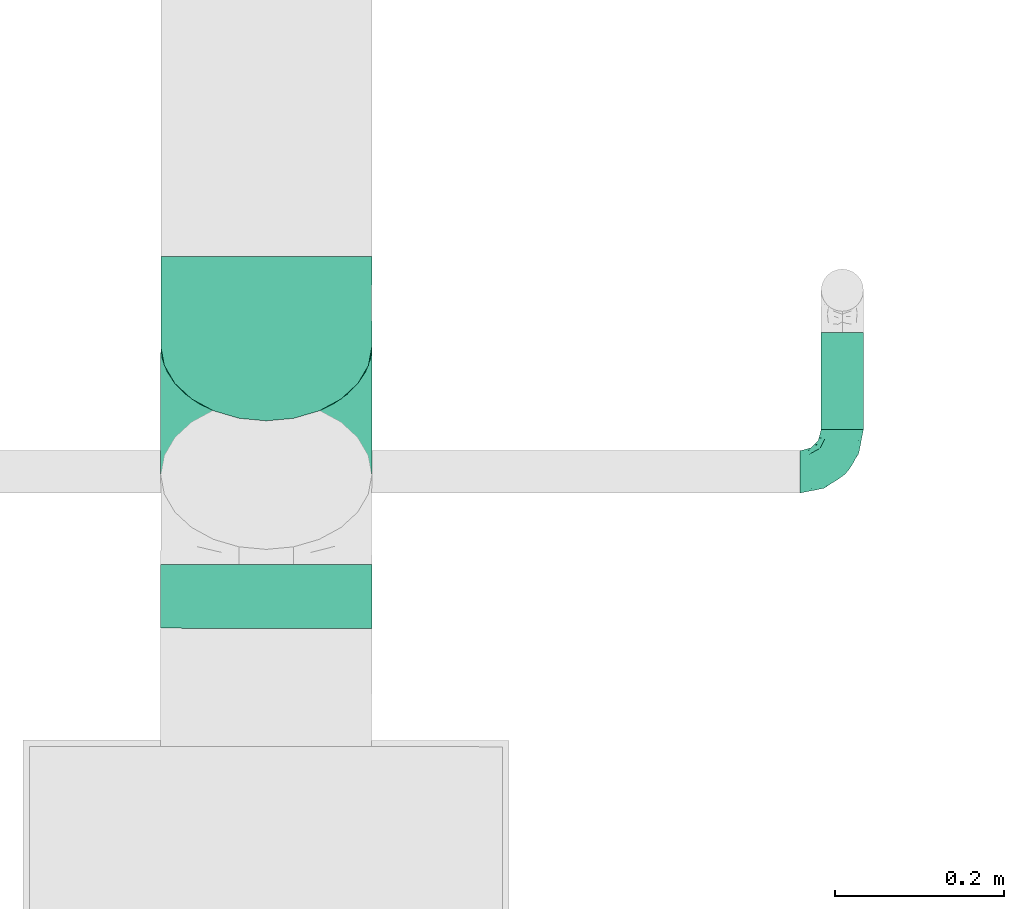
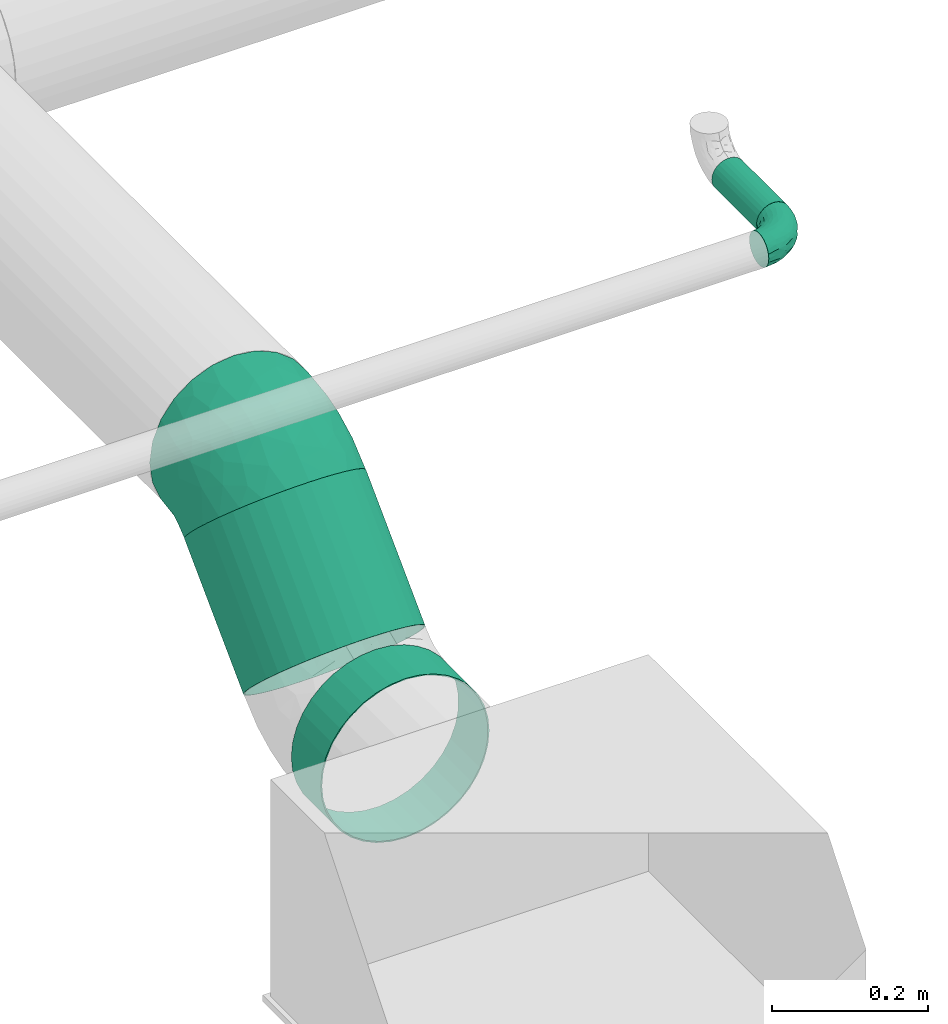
# One storey, part 41 of 63: 3 flow segments, 2 flow fittings.
"""IFC2X3 building model written with IfcOpenShell, lengths in millimetres."""

from ifc_helpers import new_model, entity, si_unit, converted_unit, derived_unit, direction, frame, origin_with_axes, origin_2d_with_axis, place, context, subcontext, project, spatial, hollow_circle, extrude, open_shell, surface_model, source, transform, mapped, type_object, element, save


model = new_model("IFC2X3")

# Units and contexts
model_context = context("Model", 3, precision=0.01, world=frame((0.0, 4.29681676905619e-09, 0.0)), true_north=direction((4.01073788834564e-13, 1.0)))
plan_context = context("Plan", 3, precision=0.01, world=frame((0.0, 4.29681676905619e-09, 0.0)), true_north=direction((4.01073788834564e-13, 1.0)))
body_context = subcontext(model_context, "Body", "Model", "MODEL_VIEW")
ifc_project = project(units=[converted_unit("PLANEANGLEUNIT", "DEGREE", entity("IfcPositiveLengthMeasure", 0.0174532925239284), si_unit("PLANEANGLEUNIT", "RADIAN"), dimensions=[0, 0, 0, 0, 0, 0, 0]), si_unit("AREAUNIT", "SQUARE_METRE"), si_unit("LENGTHUNIT", "METRE", prefix="MILLI"), si_unit("MASSUNIT", "GRAM", prefix="KILO"), si_unit("POWERUNIT", "WATT"), si_unit("PRESSUREUNIT", "PASCAL"), si_unit("FORCEUNIT", "NEWTON", prefix="KILO"), si_unit("ELECTRICVOLTAGEUNIT", "VOLT"), si_unit("ELECTRICCURRENTUNIT", "AMPERE"), si_unit("THERMODYNAMICTEMPERATUREUNIT", "DEGREE_CELSIUS"), si_unit("TIMEUNIT", "SECOND"), si_unit("VOLUMEUNIT", "CUBIC_METRE"), derived_unit("LINEARVELOCITYUNIT", [(si_unit("LENGTHUNIT", "METRE"), 1), (si_unit("TIMEUNIT", "SECOND"), -1)]), derived_unit("VOLUMETRICFLOWRATEUNIT", [(si_unit("VOLUMEUNIT", "CUBIC_METRE"), 1), (si_unit("TIMEUNIT", "SECOND"), -1)]), derived_unit("THERMALTRANSMITTANCEUNIT", [(si_unit("POWERUNIT", "WATT"), 1), (si_unit("THERMODYNAMICTEMPERATUREUNIT", "KELVIN"), -1), (si_unit("AREAUNIT", "SQUARE_METRE"), -1)]), derived_unit("SOUNDPRESSUREUNIT", [(si_unit("PRESSUREUNIT", "PASCAL"), 1)])], contexts=[model_context, plan_context])

# Site, building, storey
site_placement = place(None, frame((0.0, -4.29681676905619e-09, 0.0), z_axis=(0.0, 0.0, 1.0), x_axis=(1.0, 0.0, 0.0)))
site = spatial("IfcSite", under=ifc_project, at=site_placement, CompositionType="ELEMENT")
building_placement = place(site_placement, frame((0.0, 4.29681676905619e-09, 0.0), z_axis=(0.0, 0.0, 1.0), x_axis=(1.0, 0.0, 0.0)))
building = spatial("IfcBuilding", under=site, at=building_placement, Name="mc-building", CompositionType="ELEMENT")
storey_placement = place(building_placement, frame((0.0, 0.0, 210900.0), z_axis=(0.0, 0.0, 1.0), x_axis=(1.0, 0.0, 0.0)))
storey = spatial("IfcBuildingStorey", under=building, at=storey_placement, Name="Nivå F", CompositionType="ELEMENT", Elevation=210900.0)

# Flow fittings
duct_fitting_type_1 = type_object("IfcDuctFittingType", Name="magicirc_elbow_short_001", PredefinedType="BEND")
shared_shape_1 = source(origin_with_axes(), body_context, "Body", "SurfaceModel", [
    surface_model("IfcShellBasedSurfaceModel", [(-62.13204, 0.0, -125.0), (-62.13204, -32.35238, -120.74073), (-62.13204, 32.35238, -120.74073), (-62.13204, 62.5, -108.25318), (-62.13204, 88.38835, -88.38835), (-62.13204, 108.25318, -62.5), (-62.13204, 120.74073, -32.35238), (-62.13204, -62.5, -108.25318), (-62.13204, -88.38835, -88.38835), (-62.13204, -125.0, 0.0), (-62.13204, -108.25318, -62.5), (-62.13204, -120.74073, -32.35238), (-62.13204, 125.0, 0.0), (-62.13204, -120.74073, 32.35238), (-62.13204, 120.74073, 32.35238), (-62.13204, 108.25318, 62.5), (-62.13204, 32.35238, 120.74073), (-62.13204, 62.5, 108.25318), (-62.13204, 88.38835, 88.38835), (-62.13204, -88.38835, 88.38835), (-62.13204, -108.25318, 62.5), (-62.13204, -32.35238, 120.74073), (-62.13204, 0.0, 125.0), (-62.13204, -62.5, 108.25318), (-32.61257, 120.48054, -62.5), (-41.44261, 129.31057, -32.35238), (-44.45436, 132.32233, 0.0), (-41.44261, 129.31057, 32.35238), (-32.61257, 120.48054, 62.5), (-39.32094, -100.77129, 72.52866), (-25.3983, -115.58366, 40.92131), (-9.38975, -99.61313, 67.6303), (-40.71594, 99.20513, 81.38635), (-18.56602, 106.43398, 88.38835), (6.93461, -16.74165, 121.22697), (-29.92798, -19.88945, 122.8817), (-17.69423, -50.99343, 111.83063), (-28.63512, 12.8945, 124.68547), (-43.55871, 45.16564, 117.17454), (-19.1971, 46.34588, 119.14586), (20.11216, -107.05726, 35.36285), (37.22525, -89.79474, 60.1728), (-42.64489, 65.81413, 107.6176), (18.18237, -43.89615, 109.72868), (-48.14682, 116.23669, 52.46898), (11.13029, 29.36587, 124.68547), (-8.4822, -119.71595, 0.0), (17.31186, -111.89141, 0.0), (-27.44697, 77.92943, 103.54984), (-1.13628, 62.73759, 117.17454), (-0.26019, 88.12816, 108.25318), (29.58221, -71.41779, 87.09722), (2.27359, -83.55864, 84.32151), (46.20365, -49.09439, 98.73245), (43.10591, -104.06687, 0.0), (-28.63512, 12.89449, -124.68547), (-29.92797, -19.88945, -122.8817), (11.13029, 29.36586, -124.68547), (-19.1971, 46.34588, -119.14586), (-43.55871, 45.16564, -117.17454), (-35.69649, 74.51237, -103.54983), (-25.3983, -115.58366, -40.92131), (-48.14682, 116.23669, -52.46898), (-39.32094, -100.77129, -72.52866), (-16.38313, 76.69211, -107.6176), (-18.56602, 106.43398, -88.38835), (-0.26019, 88.12816, -108.25318), (-17.69423, -50.99343, -111.83063), (6.93461, -16.74165, -121.22697), (-1.13628, 62.73759, -117.17454), (48.5695, -23.54609, -111.83063), (35.22623, 7.0983, -122.8817), (-9.38975, -99.61313, -67.63031), (2.04406, -67.38589, -98.73245), (29.58221, -71.41778, -87.09723), (43.93399, 43.934, -125.0), (106.43399, -18.56599, 88.38835), (132.32235, -44.45434, 0.0), (21.05739, 66.81058, -120.74073), (88.12817, -0.26017, 108.25318), (66.81057, 21.05741, -120.74073), (106.43399, -18.56599, -88.38835), (88.12817, -0.26017, -108.25318), (129.31058, -41.44258, -32.35238), (120.48055, -32.61255, -62.5), (21.05739, 66.81058, 120.74073), (43.93399, 43.934, 125.0), (129.31058, -41.44258, 32.35238), (120.48055, -32.61255, 62.5), (66.81057, 21.05741, 120.74073), (-31.08246, -121.94188, 0.0), (35.22622, 7.09831, 122.8817), (77.07669, -63.79755, 67.6303), (61.9235, -89.5906, 35.66991), (-52.56496, 126.90301, 0.0), (99.68931, -63.77067, 40.92131), (48.5695, -23.54609, 111.83062), (99.06018, -43.45194, 72.52866), (74.0201, -37.27574, 94.74512), (108.20455, -64.2473, 0.0), (90.64979, -78.65413, 0.0), (66.87785, -91.36049, 0.0), (-3.43913, -67.17105, 100.02812), (19.56361, -107.13664, -35.66991), (-41.35812, 98.93914, -81.38635), (-25.98217, -78.69805, -94.74512), (61.47949, -89.92235, -35.36285), (18.18239, -43.89616, -109.72867), (57.47721, -60.69254, -84.32152), (74.02009, -37.27574, -94.74513), (77.07669, -63.79755, -67.6303), (37.17223, -89.81669, -60.17279), (99.68931, -63.77066, -40.92131), (99.06018, -43.45194, -72.52866), (49.92893, -45.06527, -100.02812), (-25.98217, -78.69805, 94.74512)], [open_shell([[[0, 1, 2]], [[3, 2, 4]], [[1, 5, 2]], [[4, 2, 5]], [[5, 1, 6]], [[7, 8, 1]], [[9, 1, 8]], [[10, 11, 8]], [[9, 8, 11]], [[9, 6, 1]], [[9, 12, 6]], [[12, 13, 14]], [[15, 14, 16]], [[16, 17, 18]], [[15, 16, 18]], [[16, 14, 19]], [[20, 19, 13]], [[19, 14, 13]], [[21, 22, 23]], [[19, 23, 22]], [[19, 22, 16]], [[9, 13, 12]], [[24, 25, 26]], [[26, 27, 28]], [[29, 30, 31]], [[32, 33, 28]], [[30, 20, 13]], [[34, 35, 36]], [[21, 35, 22]], [[21, 23, 36]], [[16, 22, 37]], [[38, 37, 39]], [[31, 40, 41]], [[42, 17, 38]], [[38, 17, 16]], [[43, 34, 36]], [[35, 37, 22]], [[14, 15, 44]], [[42, 32, 18]], [[29, 19, 20]], [[40, 31, 30]], [[37, 45, 39]], [[45, 37, 34]], [[40, 46, 47]], [[42, 18, 17]], [[33, 32, 48]], [[27, 44, 28]], [[48, 39, 49]], [[33, 48, 50]], [[44, 32, 28]], [[18, 32, 15]], [[36, 35, 21]], [[37, 35, 34]], [[41, 51, 52]], [[14, 44, 27]], [[32, 44, 15]], [[37, 38, 16]], [[42, 39, 48]], [[39, 42, 38]], [[42, 48, 32]], [[48, 49, 50]], [[45, 49, 39]], [[30, 29, 20]], [[53, 43, 51]], [[46, 40, 30]], [[47, 54, 40]], [[41, 52, 31]], [[0, 2, 55]], [[56, 1, 0]], [[57, 55, 58]], [[59, 60, 58]], [[10, 61, 11]], [[3, 4, 60]], [[62, 6, 25]], [[61, 10, 63]], [[64, 65, 66]], [[1, 56, 67]], [[8, 63, 10]], [[7, 1, 67]], [[56, 55, 68]], [[25, 24, 62]], [[69, 64, 66]], [[2, 3, 59]], [[59, 55, 2]], [[69, 57, 58]], [[70, 68, 71]], [[55, 57, 68]], [[55, 56, 0]], [[67, 56, 68]], [[57, 71, 68]], [[6, 62, 5]], [[60, 59, 3]], [[55, 59, 58]], [[64, 58, 60]], [[58, 64, 69]], [[61, 63, 72]], [[72, 73, 74]], [[75, 76, 77]], [[66, 26, 78]], [[78, 79, 75]], [[24, 66, 65]], [[66, 24, 26]], [[80, 81, 82]], [[80, 75, 81]], [[81, 83, 84]], [[83, 81, 77]], [[75, 77, 81]], [[26, 28, 50]], [[50, 85, 26]], [[50, 28, 33]], [[26, 85, 86]], [[87, 76, 88]], [[77, 76, 87]], [[79, 86, 89]], [[76, 75, 79]], [[86, 79, 26]], [[78, 26, 79]], [[90, 46, 30]], [[91, 45, 34]], [[92, 41, 93]], [[94, 14, 27]], [[40, 93, 41]], [[94, 12, 14]], [[92, 93, 95]], [[40, 54, 93]], [[96, 89, 91]], [[97, 88, 76]], [[89, 96, 79]], [[88, 97, 95]], [[88, 95, 87]], [[96, 98, 79]], [[53, 92, 98]], [[95, 99, 87]], [[85, 50, 49]], [[41, 92, 51]], [[30, 13, 90]], [[26, 94, 27]], [[93, 100, 95]], [[93, 54, 101]], [[86, 91, 89]], [[86, 85, 45]], [[45, 85, 49]], [[34, 43, 96]], [[79, 98, 76]], [[93, 101, 100]], [[53, 98, 96]], [[97, 98, 92]], [[45, 91, 86]], [[96, 91, 34]], [[13, 9, 90]], [[99, 95, 100]], [[99, 77, 87]], [[98, 97, 76]], [[95, 97, 92]], [[51, 43, 102]], [[51, 102, 52]], [[43, 36, 102]], [[43, 53, 96]], [[92, 53, 51]], [[103, 46, 61]], [[78, 75, 57]], [[4, 104, 60]], [[73, 72, 105]], [[80, 82, 70]], [[61, 90, 11]], [[83, 77, 99]], [[105, 7, 67]], [[106, 100, 101]], [[103, 54, 47]], [[72, 103, 61]], [[105, 8, 7]], [[68, 107, 67]], [[6, 12, 94]], [[108, 109, 110]], [[94, 26, 25]], [[111, 72, 74]], [[112, 83, 99]], [[82, 81, 109]], [[112, 84, 83]], [[64, 104, 65]], [[4, 5, 104]], [[113, 81, 84]], [[109, 108, 114]], [[70, 82, 109]], [[66, 78, 69]], [[75, 80, 71]], [[110, 113, 112]], [[107, 68, 70]], [[112, 99, 100]], [[106, 103, 111]], [[106, 110, 112]], [[110, 106, 111]], [[71, 57, 75]], [[103, 47, 46]], [[94, 25, 6]], [[113, 109, 81]], [[106, 54, 103]], [[73, 105, 67]], [[63, 105, 72]], [[62, 104, 5]], [[65, 104, 24]], [[70, 71, 80]], [[90, 61, 46]], [[90, 9, 11]], [[72, 111, 103]], [[111, 74, 108]], [[104, 62, 24]], [[57, 69, 78]], [[64, 60, 104]], [[112, 113, 84]], [[109, 113, 110]], [[105, 63, 8]], [[114, 70, 109]], [[73, 107, 74]], [[100, 106, 112]], [[101, 54, 106]], [[111, 108, 110]], [[74, 107, 114]], [[74, 114, 108]], [[107, 70, 114]], [[107, 73, 67]], [[23, 115, 36]], [[52, 102, 115]], [[23, 19, 115]], [[29, 115, 19]], [[52, 115, 31]], [[115, 29, 31]], [[102, 36, 115]]])]),
])
flow_fitting_1_placement = place(storey_placement, frame((530504.09314, 458782.68623, 4200.0), z_axis=(-0.999999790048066, 0.000647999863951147, -3.79470760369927e-19), x_axis=(0.000458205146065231, 0.707106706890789, 0.707106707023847)))
element("IfcFlowFitting", 1, at=flow_fitting_1_placement, inside=storey, type_object=duct_fitting_type_1, Name="magicirc_elbow_short_001", context=body_context, shape_type="MappedRepresentation", body=[
    mapped(shared_shape_1, transform((0.0, 0.0, 0.0), scale=1.0)),
])
duct_fitting_type_2 = type_object("IfcDuctFittingType", Name="magicirc_elbow_full_radius_001", PredefinedType="BEND")
shared_shape_2 = source(origin_with_axes(), body_context, "Body", "SurfaceModel", [
    surface_model("IfcShellBasedSurfaceModel", [(-50.0, -6.47048, 24.14815), (-50.0, 0.0, 25.0), (-50.0, 6.47048, 24.14815), (-50.0, 25.0, 0.0), (-50.0, 24.14815, -6.47048), (-50.0, 24.14815, 6.47048), (-50.0, 6.47048, -24.14815), (-50.0, 0.0, -25.0), (-50.0, 12.5, -21.65064), (-50.0, 21.65064, -12.5), (-50.0, 17.67767, -17.67767), (-50.0, -17.67767, -17.67767), (-50.0, -12.5, -21.65064), (-50.0, -6.47048, -24.14815), (-50.0, -21.65064, -12.5), (-50.0, -24.14815, -6.47048), (-50.0, -24.14815, 6.47048), (-50.0, -25.0, 0.0), (-50.0, 21.65064, 12.5), (-50.0, 12.5, 21.65064), (-50.0, 17.67767, 17.67767), (-50.0, -12.5, 21.65064), (-50.0, -21.65064, 12.5), (-50.0, -17.67767, 17.67767), (-24.14815, 50.0, -6.47048), (0.0, 50.0, -25.0), (-6.47048, 50.0, -24.14815), (-12.5, 50.0, -21.65064), (-21.65064, 50.0, -12.5), (-17.67767, 50.0, -17.67767), (17.67767, 50.0, -17.67767), (6.47048, 50.0, -24.14815), (12.5, 50.0, -21.65064), (24.14815, 50.0, -6.47048), (21.65064, 50.0, -12.5), (25.0, 50.0, 0.0), (-24.14815, 50.0, 6.47048), (24.14815, 50.0, 6.47048), (-6.47048, 50.0, 24.14815), (-21.65064, 50.0, 12.5), (-17.67767, 50.0, 17.67767), (-12.5, 50.0, 21.65064), (12.5, 50.0, 21.65064), (17.67767, 50.0, 17.67767), (21.65064, 50.0, 12.5), (6.47048, 50.0, 24.14815), (0.0, 50.0, 25.0), (-25.0, 50.0, 0.0), (-36.67735, -19.42227, 14.03433), (-32.82968, -14.42335, 18.62892), (-35.64937, -22.14548, 0.0), (-22.09962, -15.92094, 12.6179), (-33.22625, -21.82028, 7.797), (21.82028, 33.22625, 7.797), (17.64067, 19.58414, 6.40882), (19.29096, 21.29874, 0.0), (-24.43766, 39.90136, 10.86587), (-20.88421, 38.92216, 16.42417), (-36.74567, -9.45359, 22.49231), (-38.192, -3.31182, 24.57244), (-35.00811, 3.83216, 24.95739), (-9.13287, -11.16199, 0.0), (-19.58414, -17.64067, 6.40882), (-21.29874, -19.29096, 0.0), (-19.31524, -6.06759, 20.7695), (-24.88984, -0.22435, 24.23133), (-2.15147, -4.22615, 11.26442), (-0.41902, 0.51586, 14.93357), (-8.49829, -5.98681, 15.40266), (-39.08085, 20.84056, 16.4067), (-8.68866, 24.58498, 24.95514), (-18.51786, 18.51786, 24.39255), (-14.88627, 10.92479, 24.87122), (-43.25329, 15.13957, 20.3706), (-9.33205, 43.12334, 23.41697), (-3.42635, 37.39647, 24.9386), (-39.91378, 24.43361, 10.86421), (-39.52416, 26.62869, 5.49664), (-31.04081, 31.04081, 9.34521), (-38.53768, 9.80489, 23.61608), (-6.5257, 16.74435, 24.54744), (-12.42199, 4.5863, 23.34496), (-2.55398, 13.50681, 22.9747), (-4.46571, 4.46571, 20.43962), (14.42335, 32.82968, 18.62892), (15.92094, 22.09962, 12.6179), (19.42227, 36.67735, 14.03433), (-26.57791, 16.96315, 23.12353), (-27.47187, 10.70867, 24.55261), (3.31182, 38.192, 24.57244), (9.45359, 36.74567, 22.49231), (6.06759, 19.31524, 20.7695), (22.14548, 35.64937, 0.0), (-24.53158, 6.12607, 24.98933), (-23.14362, 26.40038, 20.54252), (-34.42614, 16.97043, 21.05258), (-26.31567, 40.33071, 5.36329), (-31.33209, 32.79034, 4.39983), (11.41104, 20.24921, 17.09898), (-28.34936, 37.5, 0.0), (-10.81204, 33.87561, 23.80901), (-14.26605, 25.87925, 24.03265), (-18.12489, 32.31264, 21.01179), (-19.91717, 24.20374, 22.74716), (-15.27322, 41.92094, 20.47431), (-20.24921, -11.41104, 17.09898), (-25.92754, 33.13968, 14.14974), (-26.35258, 27.91972, 17.70863), (-32.10875, 26.86285, 13.94058), (0.22435, 24.88984, 24.23133), (5.69292, 8.68334, 15.83541), (-11.86567, -11.15996, 11.73483), (1.48439, -3.24717, 6.76648), (7.59176, 4.45273, 8.73079), (7.75387, 2.59512, 3.74652), (12.87658, 10.42821, 5.90505), (12.55206, 12.96891, 10.49254), (-37.5, 28.34936, 0.0), (-6.73798, -9.94178, 7.2586), (3.03301, -3.03301, 0.0), (11.16199, 9.13287, 0.0), (-20.24921, -11.41104, -17.09898), (-32.82968, -14.42335, -18.62892), (-19.31524, -6.06759, -20.7695), (-22.09962, -15.92095, -12.6179), (-38.92216, 20.88421, -16.42417), (-41.92094, 15.27322, -20.47431), (-40.33071, 26.31567, -5.36329), (-33.22625, -21.82028, -7.797), (-31.04081, 31.0408, -9.34521), (-39.90136, 24.43766, -10.86587), (-19.58414, -17.64067, -6.40882), (-24.20374, 19.91717, -22.74716), (-25.87925, 14.26604, -24.03266), (-32.31264, 18.12489, -21.01179), (-15.13957, 43.25329, -20.3706), (-20.84057, 39.08085, -16.4067), (9.45359, 36.74567, -22.49231), (6.06759, 19.31524, -20.7695), (0.22435, 24.88984, -24.23133), (-43.12334, 9.33205, -23.41697), (-36.67735, -19.42227, -14.03433), (-36.74567, -9.45359, -22.49231), (-16.96315, 26.5779, -23.12354), (-9.80489, 38.53768, -23.61608), (-10.70867, 27.47187, -24.55261), (-38.192, -3.31182, -24.57244), (-24.58498, 8.68866, -24.95514), (-18.51786, 18.51786, -24.39255), (-10.92479, 14.88627, -24.87122), (-37.39647, 3.42635, -24.9386), (-26.62869, 39.52416, -5.49664), (-24.43361, 39.91378, -10.86421), (-33.87561, 10.81204, -23.80901), (-32.79034, 31.33209, -4.39983), (-6.12607, 24.53158, -24.98933), (-26.40038, 23.14362, -20.54252), (-16.97043, 34.42613, -21.05258), (3.31182, 38.192, -24.57244), (-3.83216, 35.00811, -24.95739), (19.42227, 36.67735, -14.03433), (14.42335, 32.82968, -18.62892), (7.75387, 2.59513, -3.74652), (12.87658, 10.42822, -5.90505), (-16.74435, 6.5257, -24.54744), (-4.5863, 12.42199, -23.34496), (-13.50681, 2.55398, -22.9747), (1.48439, -3.24717, -6.76647), (-6.73799, -9.94178, -7.2586), (-2.15147, -4.22615, -11.26442), (15.92094, 22.09962, -12.6179), (21.82028, 33.22625, -7.797), (17.64067, 19.58414, -6.40882), (-33.13968, 25.92753, -14.14974), (11.41104, 20.24921, -17.09898), (12.55206, 12.96891, -10.49254), (5.69292, 8.68334, -15.83541), (-27.91972, 26.35258, -17.70863), (-26.86285, 32.10875, -13.94058), (-24.88984, -0.22435, -24.23133), (-4.46571, 4.46571, -20.43962), (-8.49829, -5.98681, -15.40266), (-11.86568, -11.15996, -11.73483), (-0.41902, 0.51586, -14.93357), (7.59175, 4.45273, -8.73079)], [open_shell([[[0, 1, 2]], [[3, 4, 5]], [[6, 7, 4]], [[8, 6, 4]], [[8, 4, 9]], [[10, 8, 9]], [[11, 4, 7]], [[12, 11, 13]], [[11, 7, 13]], [[14, 15, 11]], [[15, 16, 11]], [[17, 16, 15]], [[4, 11, 5]], [[5, 11, 16]], [[18, 5, 2]], [[2, 19, 20]], [[18, 2, 20]], [[2, 5, 21]], [[22, 23, 16]], [[21, 16, 23]], [[16, 21, 5]], [[21, 0, 2]], [[24, 25, 26]], [[24, 26, 27]], [[28, 24, 27]], [[28, 27, 29]], [[25, 24, 30]], [[31, 30, 32]], [[31, 25, 30]], [[30, 33, 34]], [[24, 33, 30]], [[24, 35, 33]], [[24, 36, 35]], [[37, 35, 36]], [[38, 36, 39]], [[40, 41, 38]], [[40, 38, 39]], [[42, 36, 38]], [[37, 43, 44]], [[43, 37, 42]], [[36, 42, 37]], [[38, 45, 42]], [[38, 46, 45]], [[36, 24, 47]], [[23, 48, 49]], [[16, 17, 50]], [[51, 48, 52]], [[53, 54, 55]], [[48, 23, 22]], [[16, 52, 22]], [[39, 56, 57]], [[49, 21, 23]], [[49, 58, 21]], [[1, 59, 60]], [[61, 62, 63]], [[58, 64, 65]], [[66, 67, 68]], [[18, 20, 69]], [[70, 71, 72]], [[19, 73, 20]], [[0, 59, 1]], [[38, 74, 75]], [[1, 60, 2]], [[18, 69, 76]], [[20, 73, 69]], [[3, 5, 77]], [[5, 18, 76]], [[77, 76, 78]], [[2, 79, 19]], [[80, 81, 82]], [[68, 83, 64]], [[84, 43, 42]], [[85, 86, 84]], [[87, 79, 88]], [[21, 58, 0]], [[46, 89, 45]], [[53, 37, 44]], [[46, 38, 75]], [[84, 90, 91]], [[44, 86, 53]], [[92, 37, 53]], [[86, 44, 43]], [[90, 42, 45]], [[53, 55, 92]], [[88, 93, 72]], [[54, 53, 85]], [[87, 94, 95]], [[78, 96, 97]], [[98, 84, 91]], [[99, 96, 47]], [[79, 2, 60]], [[96, 78, 56]], [[62, 52, 63]], [[57, 40, 39]], [[100, 70, 75]], [[101, 102, 103]], [[16, 50, 52]], [[104, 41, 40]], [[74, 38, 41]], [[57, 102, 104]], [[105, 64, 49]], [[90, 84, 42]], [[39, 36, 56]], [[56, 106, 57]], [[102, 57, 107]], [[95, 107, 69]], [[76, 108, 78]], [[100, 101, 70]], [[89, 75, 109]], [[64, 58, 49]], [[63, 52, 50]], [[59, 58, 65]], [[105, 49, 51]], [[64, 83, 81]], [[89, 90, 45]], [[35, 37, 92]], [[109, 82, 91]], [[109, 91, 90]], [[91, 83, 110]], [[111, 68, 105]], [[66, 68, 111]], [[62, 51, 52]], [[66, 112, 113]], [[114, 115, 113]], [[98, 85, 84]], [[52, 48, 22]], [[49, 48, 51]], [[84, 86, 43]], [[53, 86, 85]], [[88, 79, 60]], [[73, 79, 95]], [[96, 56, 36]], [[78, 108, 106]], [[87, 103, 94]], [[100, 74, 104]], [[108, 69, 107]], [[78, 97, 77]], [[88, 72, 71]], [[109, 75, 70]], [[81, 72, 65]], [[70, 72, 80]], [[75, 89, 46]], [[90, 89, 109]], [[58, 59, 0]], [[60, 59, 65]], [[67, 83, 68]], [[110, 113, 116]], [[88, 60, 93]], [[87, 88, 71]], [[103, 87, 71]], [[79, 87, 95]], [[101, 103, 71]], [[94, 103, 102]], [[47, 96, 36]], [[96, 99, 97]], [[99, 117, 97]], [[97, 117, 77]], [[3, 77, 117]], [[5, 76, 77]], [[60, 65, 93]], [[65, 72, 93]], [[70, 101, 71]], [[102, 101, 100]], [[69, 108, 76]], [[106, 108, 107]], [[57, 106, 107]], [[78, 106, 56]], [[57, 104, 40]], [[100, 104, 102]], [[102, 107, 94]], [[95, 94, 107]], [[64, 81, 65]], [[82, 81, 83]], [[91, 82, 83]], [[80, 82, 109]], [[70, 80, 109]], [[81, 80, 72]], [[79, 73, 19]], [[69, 73, 95]], [[104, 74, 41]], [[75, 74, 100]], [[62, 61, 118]], [[111, 62, 118]], [[113, 115, 116]], [[119, 118, 61]], [[111, 105, 51]], [[113, 112, 114]], [[120, 55, 54]], [[68, 64, 105]], [[91, 110, 98]], [[116, 98, 110]], [[62, 111, 51]], [[66, 111, 118]], [[112, 66, 118]], [[67, 113, 110]], [[118, 119, 112]], [[114, 112, 119]], [[119, 120, 114]], [[115, 120, 54]], [[120, 115, 114]], [[116, 54, 85]], [[54, 116, 115]], [[116, 85, 98]], [[113, 67, 66]], [[83, 67, 110]], [[121, 122, 123]], [[122, 121, 124]], [[9, 125, 10]], [[10, 126, 8]], [[117, 127, 3]], [[50, 15, 128]], [[127, 129, 130]], [[128, 131, 63]], [[132, 133, 134]], [[29, 135, 136]], [[137, 138, 139]], [[8, 140, 6]], [[128, 14, 141]], [[142, 12, 13]], [[128, 63, 50]], [[9, 4, 130]], [[14, 11, 141]], [[143, 144, 145]], [[146, 13, 7]], [[147, 148, 149]], [[14, 128, 15]], [[124, 141, 122]], [[150, 7, 6]], [[151, 152, 129]], [[125, 134, 126]], [[153, 147, 150]], [[127, 154, 129]], [[145, 155, 149]], [[47, 24, 151]], [[143, 156, 157]], [[152, 24, 28]], [[25, 158, 159]], [[122, 11, 12]], [[29, 27, 135]], [[144, 27, 26]], [[30, 160, 161]], [[25, 31, 158]], [[120, 162, 163]], [[130, 125, 9]], [[29, 136, 28]], [[6, 140, 150]], [[32, 161, 137]], [[142, 122, 12]], [[25, 159, 26]], [[164, 165, 166]], [[167, 168, 169]], [[34, 160, 30]], [[161, 32, 30]], [[170, 160, 171]], [[131, 128, 124]], [[35, 92, 33]], [[33, 92, 171]], [[172, 171, 55]], [[33, 171, 34]], [[144, 26, 159]], [[130, 173, 125]], [[174, 175, 176]], [[136, 152, 28]], [[32, 137, 31]], [[122, 142, 123]], [[134, 125, 177]], [[157, 177, 136]], [[152, 178, 129]], [[153, 133, 147]], [[146, 150, 179]], [[146, 142, 13]], [[17, 15, 50]], [[179, 166, 123]], [[179, 123, 142]], [[123, 180, 181]], [[138, 137, 161]], [[55, 171, 92]], [[158, 137, 139]], [[174, 161, 170]], [[138, 180, 165]], [[180, 138, 176]], [[124, 121, 182]], [[176, 183, 180]], [[61, 131, 168]], [[169, 168, 182]], [[172, 170, 171]], [[122, 141, 11]], [[128, 141, 124]], [[171, 160, 34]], [[161, 160, 170]], [[145, 144, 159]], [[135, 144, 157]], [[127, 130, 4]], [[129, 178, 173]], [[143, 132, 156]], [[153, 140, 126]], [[178, 136, 177]], [[129, 154, 151]], [[145, 149, 148]], [[179, 150, 147]], [[165, 149, 139]], [[147, 149, 164]], [[150, 146, 7]], [[142, 146, 179]], [[137, 158, 31]], [[159, 158, 139]], [[174, 138, 161]], [[184, 169, 183]], [[145, 159, 155]], [[143, 145, 148]], [[132, 143, 148]], [[144, 143, 157]], [[133, 132, 148]], [[156, 132, 134]], [[3, 127, 4]], [[127, 117, 154]], [[117, 99, 154]], [[154, 99, 151]], [[47, 151, 99]], [[24, 152, 151]], [[159, 139, 155]], [[139, 149, 155]], [[147, 133, 148]], [[134, 133, 153]], [[136, 178, 152]], [[173, 178, 177]], [[125, 173, 177]], [[129, 173, 130]], [[125, 126, 10]], [[153, 126, 134]], [[134, 177, 156]], [[157, 156, 177]], [[138, 165, 139]], [[166, 165, 180]], [[123, 166, 180]], [[164, 166, 179]], [[147, 164, 179]], [[165, 164, 149]], [[144, 135, 27]], [[136, 135, 157]], [[126, 140, 8]], [[150, 140, 153]], [[182, 131, 124]], [[168, 119, 61]], [[119, 167, 162]], [[63, 131, 61]], [[172, 163, 175]], [[172, 55, 120]], [[123, 181, 121]], [[182, 121, 181]], [[175, 174, 170]], [[176, 138, 174]], [[169, 182, 181]], [[131, 182, 168]], [[183, 169, 181]], [[167, 169, 184]], [[162, 167, 184]], [[119, 168, 167]], [[163, 162, 184]], [[120, 119, 162]], [[175, 163, 184]], [[120, 163, 172]], [[176, 175, 184]], [[172, 175, 170]], [[180, 183, 181]], [[184, 183, 176]]])]),
])
flow_fitting_2_placement = place(storey_placement, frame((531185.74559, 458590.0, 4425.0), z_axis=(0.0, 0.0, 1.0), x_axis=(1.0, 0.0, 0.0)))
element("IfcFlowFitting", 2, at=flow_fitting_2_placement, inside=storey, type_object=duct_fitting_type_2, Name="magicirc_elbow_full_radius_001", context=body_context, shape_type="MappedRepresentation", body=[
    mapped(shared_shape_2, transform((0.0, 0.0, 0.0), scale=1.0)),
])

# Flow segments
duct_segment_type_1 = type_object("IfcDuctSegmentType", Name="KK002T - Spiro kanaler, Forsinket stål, korte bend", PredefinedType="RIGIDSEGMENT")
shared_shape_3 = source(origin_with_axes(), body_context, "Body", "SweptSolid", [
    extrude(hollow_circle(Radius=125.0, WallThickness=2.0, at=origin_2d_with_axis()), frame((0.0, 0.0, 0.0), z_axis=(1.0, 0.0, 0.0), x_axis=(0.0, 1.0, 0.0)), (0.0, 0.0, 1.0), 75.7),
])
flow_segment_1_placement = place(storey_placement, frame((530503.84839, 458404.84697, 3960.01264), z_axis=(0.0, 0.0, 1.0), x_axis=(0.000647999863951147, 0.999999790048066, 0.0)))
element("IfcFlowSegment", 3, at=flow_segment_1_placement, inside=storey, type_object=duct_segment_type_1, Name="KK002T - Spiro kanaler, Forsinket stål, korte bend", context=body_context, shape_type="MappedRepresentation", body=[
    mapped(shared_shape_3, transform((0.0, 0.0, 0.0), scale=1.0)),
])
shared_shape_4 = source(origin_with_axes(), body_context, "Body", "SweptSolid", [
    extrude(hollow_circle(Radius=125.0, WallThickness=2.0, at=origin_2d_with_axis()), frame((0.0, 0.0, 0.0), z_axis=(1.0, 0.0, 0.0), x_axis=(0.0, 1.0, 0.0)), (0.0, 0.0, 1.0), 215.1),
])
flow_segment_2_placement = place(storey_placement, frame((530503.96615, 458586.63296, 4003.94662999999), z_axis=(-0.00045799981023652, -0.707106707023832, 0.707106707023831), x_axis=(0.000457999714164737, 0.707106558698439, 0.707106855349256)))
element("IfcFlowSegment", 4, at=flow_segment_2_placement, inside=storey, type_object=duct_segment_type_1, Name="KK002T - Spiro kanaler, Forsinket stål, korte bend", context=body_context, shape_type="MappedRepresentation", body=[
    mapped(shared_shape_4, transform((0.0, 0.0, 0.0), scale=1.0)),
])
duct_segment_type_2 = type_object("IfcDuctSegmentType", Name="Sirkulær kanal", PredefinedType="RIGIDSEGMENT")
shared_shape_5 = source(origin_with_axes(), body_context, "Body", "SweptSolid", [
    extrude(hollow_circle(Radius=25.0, WallThickness=2.0, at=origin_2d_with_axis()), frame((0.0, 0.0, 0.0), z_axis=(1.0, 0.0, 0.0), x_axis=(0.0, 1.0, 0.0)), (0.0, 0.0, 1.0), 115.0),
])
flow_segment_3_placement = place(storey_placement, frame((531185.74559, 458640.0, 4425.0), z_axis=(0.0, 0.0, 1.0), x_axis=(0.0, 1.0, 0.0)))
element("IfcFlowSegment", 5, at=flow_segment_3_placement, inside=storey, type_object=duct_segment_type_2, Name="Sirkulær kanal", context=body_context, shape_type="MappedRepresentation", body=[
    mapped(shared_shape_5, transform((0.0, 0.0, 0.0), scale=1.0)),
])

save(model, "model.ifc")
